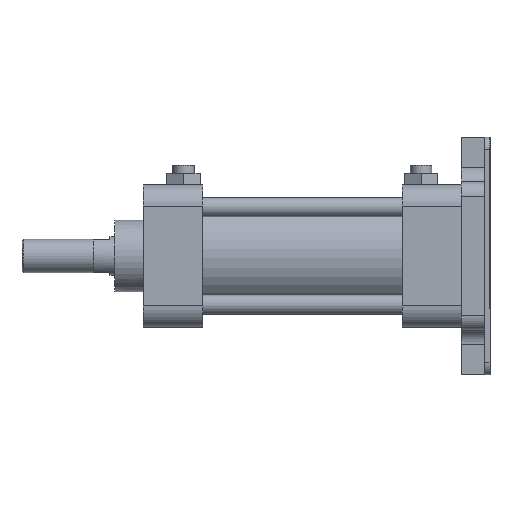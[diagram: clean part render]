
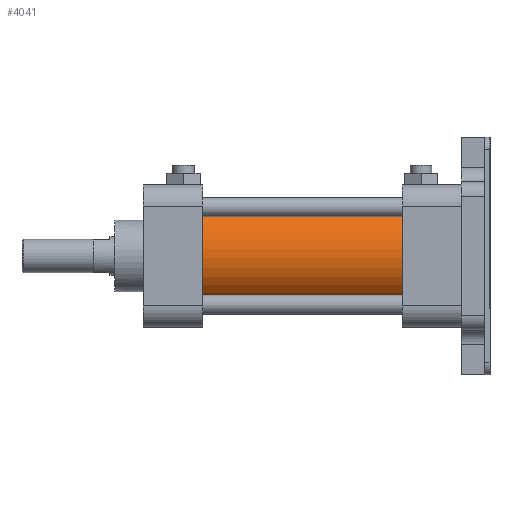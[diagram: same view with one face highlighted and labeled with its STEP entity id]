
A CAD part, front view. The second image highlights one B-rep face of the part: STEP entity #4041.
In plain terms, the highlighted cylindrical face has radius 23 mm (diameter 46 mm), a partial arc.
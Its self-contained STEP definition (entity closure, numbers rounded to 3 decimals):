
#79 = EDGE_LOOP ( 'NONE', ( #6593, #5047, #802, #2659 ) ) ;
#234 = DIRECTION ( 'NONE',  ( 0., 0., 1. ) ) ;
#748 = CARTESIAN_POINT ( 'NONE',  ( -29.1, 0., 23. ) ) ;
#802 = ORIENTED_EDGE ( 'NONE', *, *, #2919, .T. ) ;
#1716 = EDGE_CURVE ( 'NONE', #6866, #6179, #8752, .T. ) ;
#1750 = AXIS2_PLACEMENT_3D ( 'NONE', #2451, #8513, #234 ) ;
#1778 = CARTESIAN_POINT ( 'NONE',  ( 42., 0., -23. ) ) ;
#1783 = CYLINDRICAL_SURFACE ( 'NONE', #1750, 23. ) ;
#2451 = CARTESIAN_POINT ( 'NONE',  ( -29.1, 0., 0. ) ) ;
#2659 = ORIENTED_EDGE ( 'NONE', *, *, #10249, .F. ) ;
#2919 = EDGE_CURVE ( 'NONE', #4855, #8225, #10523, .T. ) ;
#3623 = CARTESIAN_POINT ( 'NONE',  ( -42., 0., -23. ) ) ;
#3873 = DIRECTION ( 'NONE',  ( -1., 0., 0. ) ) ;
#4041 = ADVANCED_FACE ( 'NONE', ( #5852 ), #1783, .T. ) ;
#4248 = VECTOR ( 'NONE', #6766, 1000. ) ;
#4344 = AXIS2_PLACEMENT_3D ( 'NONE', #9104, #5426, #8593 ) ;
#4855 = VERTEX_POINT ( 'NONE', #6823 ) ;
#5047 = ORIENTED_EDGE ( 'NONE', *, *, #8615, .T. ) ;
#5426 = DIRECTION ( 'NONE',  ( -1., 0., 0. ) ) ;
#5761 = CARTESIAN_POINT ( 'NONE',  ( -42., 0., 0. ) ) ;
#5852 = FACE_OUTER_BOUND ( 'NONE', #79, .T. ) ;
#6179 = VERTEX_POINT ( 'NONE', #3623 ) ;
#6266 = CIRCLE ( 'NONE', #4344, 23. ) ;
#6593 = ORIENTED_EDGE ( 'NONE', *, *, #1716, .F. ) ;
#6766 = DIRECTION ( 'NONE',  ( -1., 0., 0. ) ) ;
#6823 = CARTESIAN_POINT ( 'NONE',  ( 42., 0., 23. ) ) ;
#6839 = CARTESIAN_POINT ( 'NONE',  ( -29.1, 0., -23. ) ) ;
#6866 = VERTEX_POINT ( 'NONE', #1778 ) ;
#7338 = CARTESIAN_POINT ( 'NONE',  ( -42., 0., 23. ) ) ;
#8225 = VERTEX_POINT ( 'NONE', #7338 ) ;
#8370 = AXIS2_PLACEMENT_3D ( 'NONE', #5761, #8834, #10344 ) ;
#8513 = DIRECTION ( 'NONE',  ( -1., 0., 0. ) ) ;
#8593 = DIRECTION ( 'NONE',  ( 0., 0., 1. ) ) ;
#8615 = EDGE_CURVE ( 'NONE', #6866, #4855, #6266, .T. ) ;
#8752 = LINE ( 'NONE', #6839, #10501 ) ;
#8834 = DIRECTION ( 'NONE',  ( -1., 0., 0. ) ) ;
#9104 = CARTESIAN_POINT ( 'NONE',  ( 42., 0., 0. ) ) ;
#9139 = CIRCLE ( 'NONE', #8370, 23. ) ;
#10249 = EDGE_CURVE ( 'NONE', #6179, #8225, #9139, .T. ) ;
#10344 = DIRECTION ( 'NONE',  ( 0., 0., 1. ) ) ;
#10501 = VECTOR ( 'NONE', #3873, 1000. ) ;
#10523 = LINE ( 'NONE', #748, #4248 ) ;
